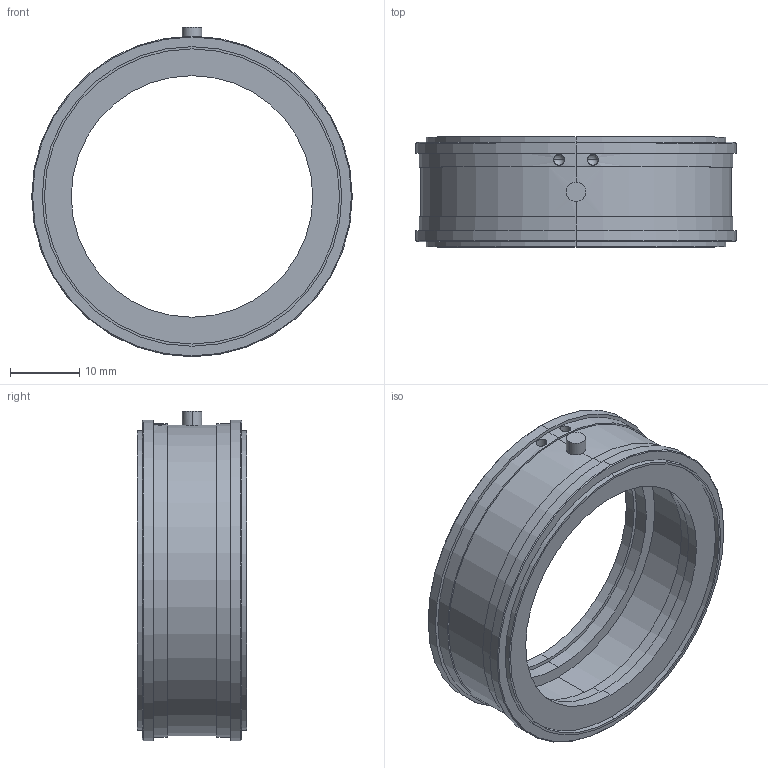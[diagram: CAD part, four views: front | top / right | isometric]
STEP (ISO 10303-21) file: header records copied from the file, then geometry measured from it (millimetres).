
FILE_DESCRIPTION (( 'STEP AP214' ), '1' );
FILE_NAME ('Final ASBY SS1366-500LB!.STEP', '2024-08-12T14:44:46', ( '' ), ( '' ), 'SwSTEP 2.0', 'SolidWorks 2008', '' );
FILE_SCHEMA (( 'AUTOMOTIVE_DESIGN' ));
Length unit declared in the file: inch
Products named in the file (1): Final ASBY SS1366-500LB!
Bounding box: 46.35 x 15.88 x 47.64 mm (x, y, z)
Volume: 7390.5 mm3; surface area: 6350.8 mm2
Topology: 1 solids, 1 shells, 57 faces, 125 edges, 80 vertices
Faces by surface type: cylinder 34, plane 15, sphere 4, cone 4
Entity records: 1654 total; most frequent: CARTESIAN_POINT 357, DIRECTION 295, ORIENTED_EDGE 234, AXIS2_PLACEMENT_3D 128, EDGE_CURVE 117, VERTEX_POINT 76, EDGE_LOOP 73, CIRCLE 70
